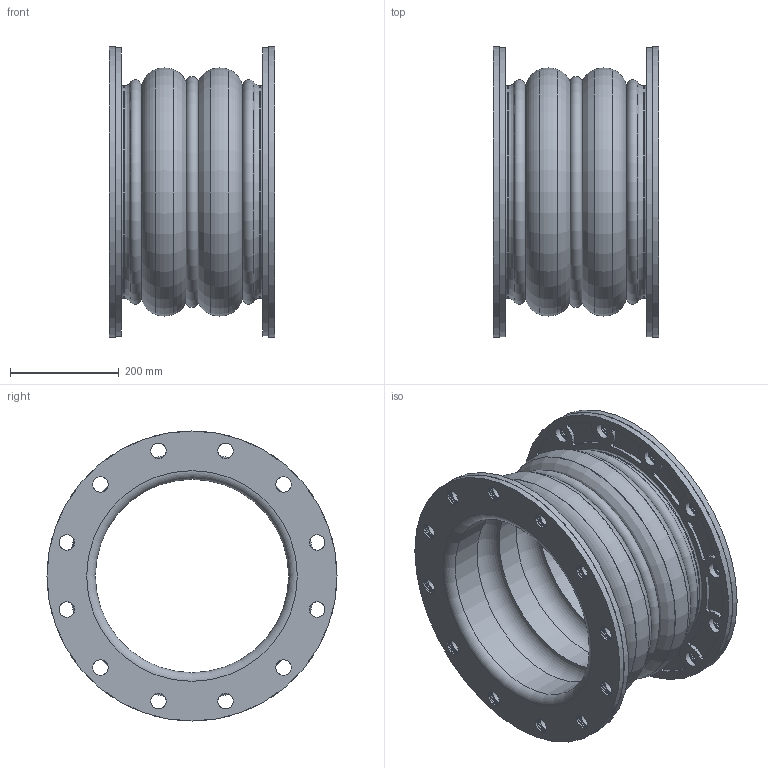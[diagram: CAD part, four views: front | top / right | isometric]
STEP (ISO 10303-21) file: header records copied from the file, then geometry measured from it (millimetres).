
FILE_DESCRIPTION((''),'2;1');
FILE_NAME('C:\2011_Work\Designs\Mercer\Stock Joints\450 Style\452\STEP\Style452 14x12.stp','2013-07-26T17:22:47',('mquog'),(''),'Autodesk Inventor 2011','Autodesk Inventor 2011','');
FILE_SCHEMA(('AUTOMOTIVE_DESIGN { 1 0 10303 214 1 1 1 1 }'));
Length unit declared in the file: inch
Products named in the file (4): Style452 14x12; 14DI450BUR150; 14_MBR; 452 14x12
Assembly tree (4 placements, depth 2):
  Style452 14x12
    14DI450BUR150  x2
    14_MBR
    452 14x12
Bounding box: 304.8 x 533.4 x 533.4 mm (x, y, z)
Volume: 13221883.5 mm3; surface area: 10140298.4 mm2
Topology: 36 solids, 36 shells, 617 faces, 1619 edges, 1235 vertices
Faces by surface type: cylinder 424, torus 101, plane 92
Full cylindrical faces by diameter (mm): 28.575 x168, 355.6 x3, 361.95 x6, 368.3 x12, 372.161 x6, 376.022 x8, 379.197 x3, 382.588 x2, 387.35 x6, 392.113 x2, 527.05 x12, 533.4 x4
Entity records: 15322 total; most frequent: DIRECTION 2733, CARTESIAN_POINT 2378, ORIENTED_EDGE 1648, AXIS2_PLACEMENT_3D 1273, EDGE_LOOP 1189, EDGE_CURVE 824, CIRCLE 778, VERTEX_POINT 727
